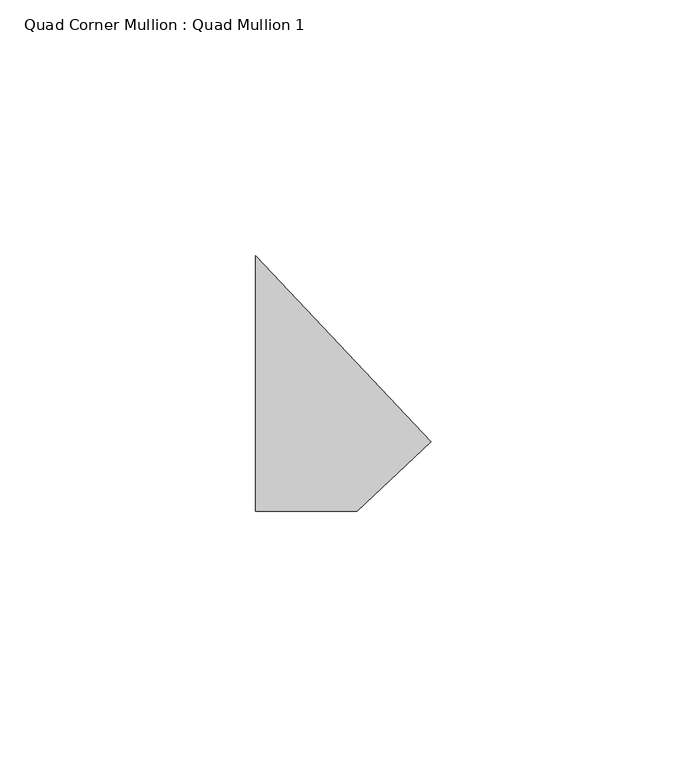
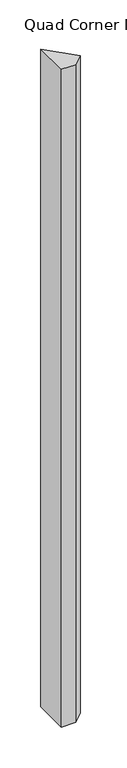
"""IFC4 building model written with IfcOpenShell, lengths in millimetres: member geometry, Quad Corner Mullion : Quad Mullion 1."""

from ifc_helpers import new_model, si_unit, frame, origin, place, context, project, spatial, polyline, outline, extrude, source, transform, mapped, element, save


def quad_corner_mullion_quad_mullion_1_6d27dace(model_context):
    return source(origin(), model_context, "Body", "SweptSolid", [
        extrude(outline(polyline([(24.401947, -11.3345815), (9.9462434, -25.0), (-9.9462434, -25.0), (-9.9462434, 25.0), (24.401947, -11.3345815)])), frame((0.0, 0.0, -980.0), z_axis=(0.0, 0.0, 1.0), x_axis=(1.0, 0.0, 0.0)), (0.0, 0.0, 1.0), 980.0),
    ])


if __name__ == "__main__":
    model = new_model("IFC4")
    model_context = context("Model", 3, world=origin())
    ifc_project = project(units=[si_unit("LENGTHUNIT", "METRE", prefix="MILLI")], contexts=[model_context])
    site = spatial("IfcSite", under=ifc_project)
    building = spatial("IfcBuilding", under=site)
    placement = place(None, origin())
    quad_corner_mullion_quad_mullion_1_shape = quad_corner_mullion_quad_mullion_1_6d27dace(model_context)
    element("IfcMember", 1, ObjectType="Quad Corner Mullion : Quad Mullion 1", at=placement, inside=building, context=model_context, shape_type="MappedRepresentation", body=[
        mapped(quad_corner_mullion_quad_mullion_1_shape, transform((0.0, 0.0, 0.0), x_axis=(1.0, 0.0, 0.0), y_axis=(0.0, 1.0, 0.0), z_axis=(0.0, 0.0, 1.0))),
    ])
    save(model, "model.ifc")
